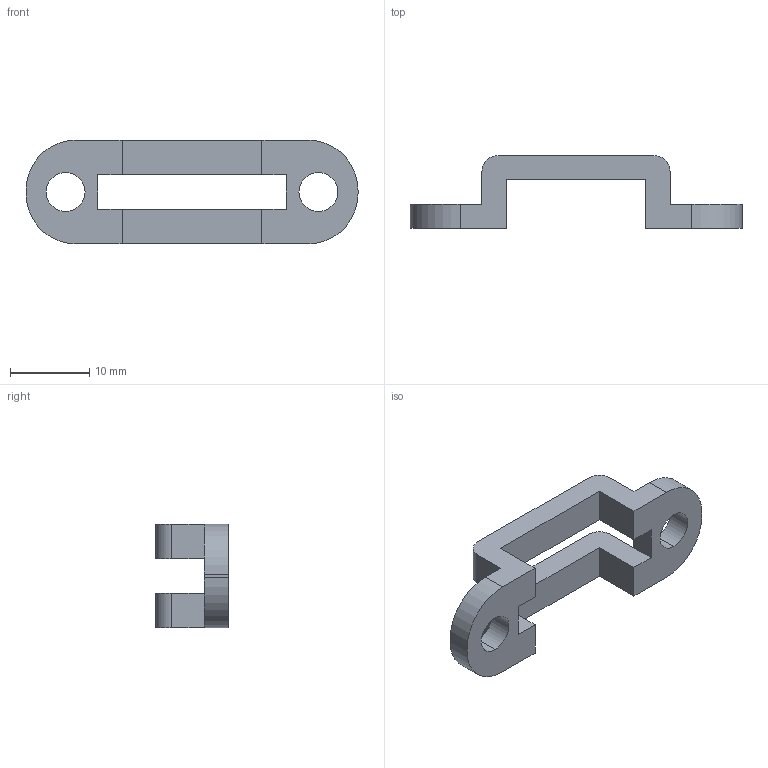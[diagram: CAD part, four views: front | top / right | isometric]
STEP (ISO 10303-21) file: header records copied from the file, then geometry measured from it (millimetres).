
FILE_DESCRIPTION (( 'STEP AP214' ), '1' );
FILE_NAME ('5030_V01_REF_STP_PASS-THRU_SINGLE_CLIP.STEP', '2025-04-10T18:54:27', ( '' ), ( '' ), 'SwSTEP 2.0', 'SolidWorks 2025', '' );
FILE_SCHEMA (( 'AUTOMOTIVE_DESIGN' ));
Length unit declared in the file: inch
Products named in the file (1): 5030_V01_REF_STP_PASS-THRU_SINGLE_CLIP
Bounding box: 42.01 x 9.22 x 13.16 mm (x, y, z)
Volume: 1466.7 mm3; surface area: 1669.5 mm2
Topology: 1 solids, 1 shells, 36 faces, 104 edges, 68 vertices
Faces by surface type: plane 24, cylinder 12
Entity records: 1219 total; most frequent: CARTESIAN_POINT 209, ORIENTED_EDGE 208, DIRECTION 202, EDGE_CURVE 104, VECTOR 80, LINE 80, VERTEX_POINT 68, AXIS2_PLACEMENT_3D 61
